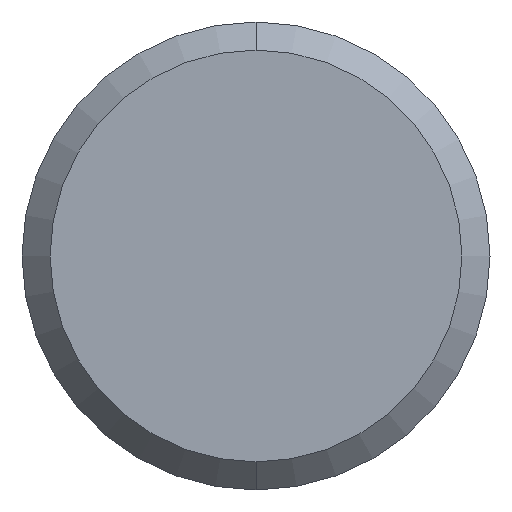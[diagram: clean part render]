
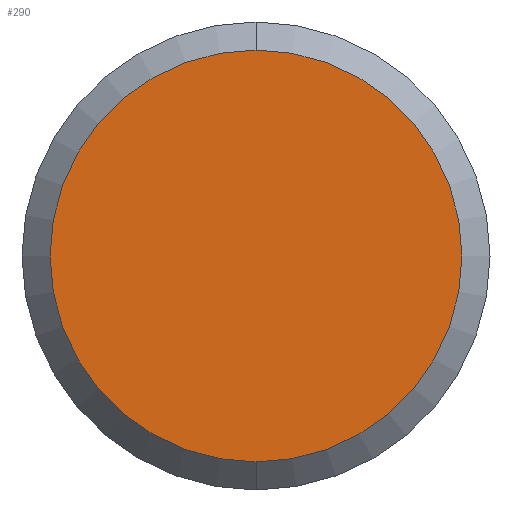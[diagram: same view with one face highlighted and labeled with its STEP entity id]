
A CAD part, left-side view. The second image highlights one B-rep face of the part: STEP entity #290.
In plain terms, the highlighted planar face has unit normal (-1, 0, 0).
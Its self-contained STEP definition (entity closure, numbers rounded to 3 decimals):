
#14 = ORIENTED_EDGE ( 'NONE', *, *, #309, .T. ) ;
#28 = AXIS2_PLACEMENT_3D ( 'NONE', #470, #101, #425 ) ;
#82 = CIRCLE ( 'NONE', #28, 11. ) ;
#84 = EDGE_LOOP ( 'NONE', ( #398, #14 ) ) ;
#101 = DIRECTION ( 'NONE',  ( -1., 0., 0. ) ) ;
#105 = CARTESIAN_POINT ( 'NONE',  ( 0., 0., 0. ) ) ;
#118 = DIRECTION ( 'NONE',  ( 0., 0., -1. ) ) ;
#158 = DIRECTION ( 'NONE',  ( 0., 0., -1. ) ) ;
#167 = DIRECTION ( 'NONE',  ( 1., 0., 0. ) ) ;
#208 = AXIS2_PLACEMENT_3D ( 'NONE', #105, #431, #158 ) ;
#290 = ADVANCED_FACE ( 'NONE', ( #328 ), #531, .F. ) ;
#309 = EDGE_CURVE ( 'NONE', #319, #390, #82, .T. ) ;
#319 = VERTEX_POINT ( 'NONE', #351 ) ;
#328 = FACE_OUTER_BOUND ( 'NONE', #84, .T. ) ;
#351 = CARTESIAN_POINT ( 'NONE',  ( 0., 0., 11. ) ) ;
#386 = CARTESIAN_POINT ( 'NONE',  ( 0., 0., -11. ) ) ;
#390 = VERTEX_POINT ( 'NONE', #386 ) ;
#398 = ORIENTED_EDGE ( 'NONE', *, *, #405, .T. ) ;
#405 = EDGE_CURVE ( 'NONE', #390, #319, #542, .T. ) ;
#425 = DIRECTION ( 'NONE',  ( 0., 0., -1. ) ) ;
#431 = DIRECTION ( 'NONE',  ( -1., 0., 0. ) ) ;
#470 = CARTESIAN_POINT ( 'NONE',  ( 0., 0., 0. ) ) ;
#486 = CARTESIAN_POINT ( 'NONE',  ( 0., 0., 0. ) ) ;
#531 = PLANE ( 'NONE',  #586 ) ;
#542 = CIRCLE ( 'NONE', #208, 11. ) ;
#586 = AXIS2_PLACEMENT_3D ( 'NONE', #486, #167, #118 ) ;
